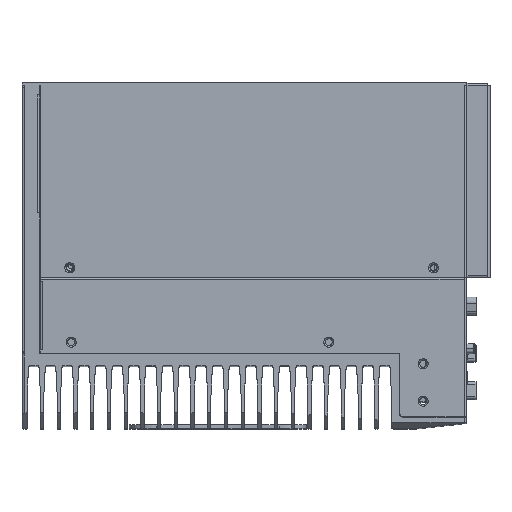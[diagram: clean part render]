
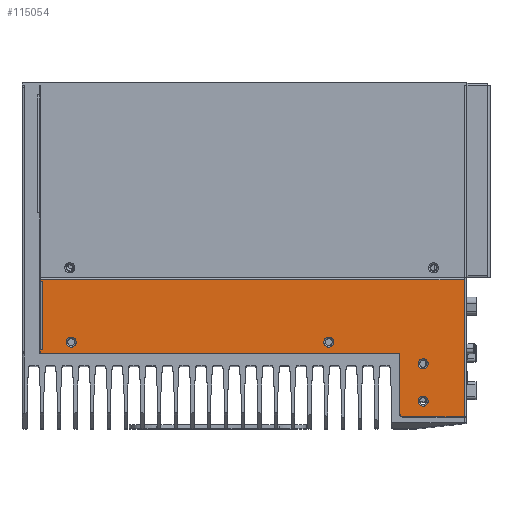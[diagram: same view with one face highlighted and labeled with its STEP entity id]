
A CAD part, top view. The second image highlights one B-rep face of the part: STEP entity #115054.
In plain terms, the highlighted planar face has unit normal (0, 0, 1).
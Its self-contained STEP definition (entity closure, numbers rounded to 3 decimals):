
#29080=DIRECTION('',(-1.,0.,0.));
#29081=VECTOR('',#29080,215.5);
#29082=CARTESIAN_POINT('',(111.8,75.8,110.));
#29083=LINE('',#29082,#29081);
#29126=DIRECTION('',(0.,-1.,0.));
#29127=VECTOR('',#29126,1.);
#29128=CARTESIAN_POINT('',(111.8,76.8,110.));
#29129=LINE('',#29128,#29127);
#29140=DIRECTION('',(0.,-1.,0.));
#29141=VECTOR('',#29140,1.);
#29142=CARTESIAN_POINT('',(-103.7,76.8,110.));
#29143=LINE('',#29142,#29141);
#29147=DIRECTION('',(1.,0.,0.));
#29148=VECTOR('',#29147,0.1);
#29149=CARTESIAN_POINT('',(111.8,76.8,110.));
#29150=LINE('',#29149,#29148);
#29154=DIRECTION('',(-1.,0.,0.));
#29155=VECTOR('',#29154,30.9);
#29156=CARTESIAN_POINT('',(111.9,6.,110.));
#29157=LINE('',#29156,#29155);
#29161=CARTESIAN_POINT('',(81.,8.,110.));
#29162=DIRECTION('',(0.,0.,-1.));
#29163=DIRECTION('',(0.,-1.,0.));
#29164=AXIS2_PLACEMENT_3D('',#29161,#29162,#29163);
#29169=DIRECTION('',(0.,1.,0.));
#29170=VECTOR('',#29169,30.1);
#29171=CARTESIAN_POINT('',(79.,8.,110.));
#29172=LINE('',#29171,#29170);
#29176=DIRECTION('',(-1.,0.,0.));
#29177=VECTOR('',#29176,182.8);
#29178=CARTESIAN_POINT('',(79.,38.1,110.));
#29179=LINE('',#29178,#29177);
#29183=DIRECTION('',(0.,1.,0.));
#29184=VECTOR('',#29183,2.);
#29185=CARTESIAN_POINT('',(-103.8,38.1,110.));
#29186=LINE('',#29185,#29184);
#29190=DIRECTION('',(1.,0.,0.));
#29191=VECTOR('',#29190,1.);
#29192=CARTESIAN_POINT('',(-103.8,40.1,110.));
#29193=LINE('',#29192,#29191);
#29197=DIRECTION('',(0.,1.,0.));
#29198=VECTOR('',#29197,2.);
#29199=CARTESIAN_POINT('',(-103.8,74.8,110.));
#29200=LINE('',#29199,#29198);
#29204=DIRECTION('',(1.,0.,0.));
#29205=VECTOR('',#29204,0.1);
#29206=CARTESIAN_POINT('',(-103.8,76.8,110.));
#29207=LINE('',#29206,#29205);
#29211=CARTESIAN_POINT('',(-88.,44.,110.));
#29212=DIRECTION('',(0.,0.,1.));
#29213=DIRECTION('',(0.,-1.,0.));
#29214=AXIS2_PLACEMENT_3D('',#29211,#29212,#29213);
#29219=CARTESIAN_POINT('',(-88.,44.,110.));
#29220=DIRECTION('',(0.,0.,1.));
#29221=DIRECTION('',(0.,1.,0.));
#29222=AXIS2_PLACEMENT_3D('',#29219,#29220,#29221);
#29227=CARTESIAN_POINT('',(91.,14.,110.));
#29228=DIRECTION('',(0.,0.,1.));
#29229=DIRECTION('',(0.,-1.,0.));
#29230=AXIS2_PLACEMENT_3D('',#29227,#29228,#29229);
#29235=CARTESIAN_POINT('',(91.,14.,110.));
#29236=DIRECTION('',(0.,0.,1.));
#29237=DIRECTION('',(0.,1.,0.));
#29238=AXIS2_PLACEMENT_3D('',#29235,#29236,#29237);
#29243=CARTESIAN_POINT('',(91.,33.,110.));
#29244=DIRECTION('',(0.,0.,1.));
#29245=DIRECTION('',(0.,-1.,0.));
#29246=AXIS2_PLACEMENT_3D('',#29243,#29244,#29245);
#29251=CARTESIAN_POINT('',(91.,33.,110.));
#29252=DIRECTION('',(0.,0.,1.));
#29253=DIRECTION('',(0.,1.,0.));
#29254=AXIS2_PLACEMENT_3D('',#29251,#29252,#29253);
#29259=CARTESIAN_POINT('',(43.,44.,110.));
#29260=DIRECTION('',(0.,0.,1.));
#29261=DIRECTION('',(0.,-1.,0.));
#29262=AXIS2_PLACEMENT_3D('',#29259,#29260,#29261);
#29267=CARTESIAN_POINT('',(43.,44.,110.));
#29268=DIRECTION('',(0.,0.,1.));
#29269=DIRECTION('',(0.,1.,0.));
#29270=AXIS2_PLACEMENT_3D('',#29267,#29268,#29269);
#37239=DIRECTION('',(0.,1.,0.));
#37240=VECTOR('',#37239,70.8);
#37241=CARTESIAN_POINT('',(111.9,6.,110.));
#37242=LINE('',#37241,#37240);
#37800=DIRECTION('',(1.,0.,0.));
#37801=VECTOR('',#37800,1.);
#37802=CARTESIAN_POINT('',(-103.8,74.8,110.));
#37803=LINE('',#37802,#37801);
#37821=DIRECTION('',(0.,-1.,0.));
#37822=VECTOR('',#37821,34.7);
#37823=CARTESIAN_POINT('',(-102.8,74.8,110.));
#37824=LINE('',#37823,#37822);
#87269=CARTESIAN_POINT('',(43.,41.45,110.));
#87270=CARTESIAN_POINT('',(43.,46.55,110.));
#87271=VERTEX_POINT('',#87269);
#87272=VERTEX_POINT('',#87270);
#87273=CARTESIAN_POINT('',(-103.7,76.8,110.));
#87274=CARTESIAN_POINT('',(-103.7,75.8,110.));
#87275=VERTEX_POINT('',#87273);
#87276=VERTEX_POINT('',#87274);
#87277=CARTESIAN_POINT('',(111.8,75.8,110.));
#87278=VERTEX_POINT('',#87277);
#87279=CARTESIAN_POINT('',(111.8,76.8,110.));
#87280=VERTEX_POINT('',#87279);
#87281=CARTESIAN_POINT('',(111.9,76.8,110.));
#87282=VERTEX_POINT('',#87281);
#87283=CARTESIAN_POINT('',(111.9,6.,110.));
#87284=VERTEX_POINT('',#87283);
#87285=CARTESIAN_POINT('',(81.,6.,110.));
#87286=VERTEX_POINT('',#87285);
#87287=CARTESIAN_POINT('',(79.,8.,110.));
#87288=VERTEX_POINT('',#87287);
#87289=CARTESIAN_POINT('',(79.,38.1,110.));
#87290=VERTEX_POINT('',#87289);
#87291=CARTESIAN_POINT('',(-103.8,38.1,110.));
#87292=VERTEX_POINT('',#87291);
#87293=CARTESIAN_POINT('',(-103.8,40.1,110.));
#87294=VERTEX_POINT('',#87293);
#87295=CARTESIAN_POINT('',(-102.8,40.1,110.));
#87296=VERTEX_POINT('',#87295);
#87297=CARTESIAN_POINT('',(-102.8,74.8,110.));
#87298=VERTEX_POINT('',#87297);
#87299=CARTESIAN_POINT('',(-103.8,74.8,110.));
#87300=VERTEX_POINT('',#87299);
#87301=CARTESIAN_POINT('',(-103.8,76.8,110.));
#87302=VERTEX_POINT('',#87301);
#87303=CARTESIAN_POINT('',(-88.,41.45,110.));
#87304=CARTESIAN_POINT('',(-88.,46.55,110.));
#87305=VERTEX_POINT('',#87303);
#87306=VERTEX_POINT('',#87304);
#87307=CARTESIAN_POINT('',(91.,11.45,110.));
#87308=CARTESIAN_POINT('',(91.,16.55,110.));
#87309=VERTEX_POINT('',#87307);
#87310=VERTEX_POINT('',#87308);
#87311=CARTESIAN_POINT('',(91.,30.45,110.));
#87312=CARTESIAN_POINT('',(91.,35.55,110.));
#87313=VERTEX_POINT('',#87311);
#87314=VERTEX_POINT('',#87312);
#114995=CARTESIAN_POINT('',(113.,104.197,110.));
#114996=DIRECTION('',(0.,0.,1.));
#114997=DIRECTION('',(0.,-1.,0.));
#114998=AXIS2_PLACEMENT_3D('',#114995,#114996,#114997);
#114999=PLANE('',#114998);
#115001=ORIENTED_EDGE('',*,*,#115000,.T.);
#115002=ORIENTED_EDGE('',*,*,#114955,.F.);
#115003=ORIENTED_EDGE('',*,*,#114985,.F.);
#115005=ORIENTED_EDGE('',*,*,#115004,.T.);
#115007=ORIENTED_EDGE('',*,*,#115006,.F.);
#115009=ORIENTED_EDGE('',*,*,#115008,.T.);
#115011=ORIENTED_EDGE('',*,*,#115010,.T.);
#115013=ORIENTED_EDGE('',*,*,#115012,.T.);
#115015=ORIENTED_EDGE('',*,*,#115014,.T.);
#115017=ORIENTED_EDGE('',*,*,#115016,.T.);
#115019=ORIENTED_EDGE('',*,*,#115018,.T.);
#115021=ORIENTED_EDGE('',*,*,#115020,.F.);
#115023=ORIENTED_EDGE('',*,*,#115022,.F.);
#115025=ORIENTED_EDGE('',*,*,#115024,.T.);
#115027=ORIENTED_EDGE('',*,*,#115026,.T.);
#115028=EDGE_LOOP('',(#115001,#115002,#115003,#115005,#115007,#115009,#115011,
#115013,#115015,#115017,#115019,#115021,#115023,#115025,#115027));
#115029=FACE_OUTER_BOUND('',#115028,.F.);
#115031=ORIENTED_EDGE('',*,*,#115030,.T.);
#115033=ORIENTED_EDGE('',*,*,#115032,.T.);
#115034=EDGE_LOOP('',(#115031,#115033));
#115035=FACE_BOUND('',#115034,.F.);
#115037=ORIENTED_EDGE('',*,*,#115036,.T.);
#115039=ORIENTED_EDGE('',*,*,#115038,.T.);
#115040=EDGE_LOOP('',(#115037,#115039));
#115041=FACE_BOUND('',#115040,.F.);
#115043=ORIENTED_EDGE('',*,*,#115042,.T.);
#115045=ORIENTED_EDGE('',*,*,#115044,.T.);
#115046=EDGE_LOOP('',(#115043,#115045));
#115047=FACE_BOUND('',#115046,.F.);
#115049=ORIENTED_EDGE('',*,*,#115048,.T.);
#115051=ORIENTED_EDGE('',*,*,#115050,.T.);
#115052=EDGE_LOOP('',(#115049,#115051));
#115053=FACE_BOUND('',#115052,.F.);
#29165=CIRCLE('',#29164,2.);
#29215=CIRCLE('',#29214,2.55);
#29223=CIRCLE('',#29222,2.55);
#29231=CIRCLE('',#29230,2.55);
#29239=CIRCLE('',#29238,2.55);
#29247=CIRCLE('',#29246,2.55);
#29255=CIRCLE('',#29254,2.55);
#29263=CIRCLE('',#29262,2.55);
#29271=CIRCLE('',#29270,2.55);
#114955=EDGE_CURVE('',#87278,#87276,#29083,.T.);
#114985=EDGE_CURVE('',#87280,#87278,#29129,.T.);
#115000=EDGE_CURVE('',#87275,#87276,#29143,.T.);
#115004=EDGE_CURVE('',#87280,#87282,#29150,.T.);
#115006=EDGE_CURVE('',#87284,#87282,#37242,.T.);
#115008=EDGE_CURVE('',#87284,#87286,#29157,.T.);
#115010=EDGE_CURVE('',#87286,#87288,#29165,.T.);
#115012=EDGE_CURVE('',#87288,#87290,#29172,.T.);
#115014=EDGE_CURVE('',#87290,#87292,#29179,.T.);
#115016=EDGE_CURVE('',#87292,#87294,#29186,.T.);
#115018=EDGE_CURVE('',#87294,#87296,#29193,.T.);
#115020=EDGE_CURVE('',#87298,#87296,#37824,.T.);
#115022=EDGE_CURVE('',#87300,#87298,#37803,.T.);
#115024=EDGE_CURVE('',#87300,#87302,#29200,.T.);
#115026=EDGE_CURVE('',#87302,#87275,#29207,.T.);
#115030=EDGE_CURVE('',#87305,#87306,#29215,.T.);
#115032=EDGE_CURVE('',#87306,#87305,#29223,.T.);
#115036=EDGE_CURVE('',#87309,#87310,#29231,.T.);
#115038=EDGE_CURVE('',#87310,#87309,#29239,.T.);
#115042=EDGE_CURVE('',#87313,#87314,#29247,.T.);
#115044=EDGE_CURVE('',#87314,#87313,#29255,.T.);
#115048=EDGE_CURVE('',#87271,#87272,#29263,.T.);
#115050=EDGE_CURVE('',#87272,#87271,#29271,.T.);
#115054=ADVANCED_FACE('',(#115029,#115035,#115041,#115047,#115053),#114999,.T.);
